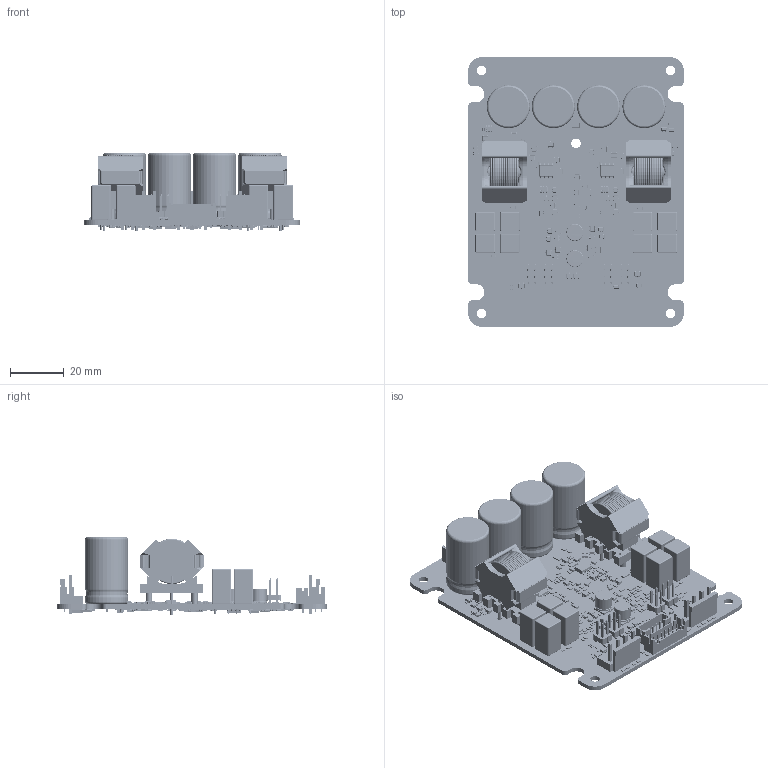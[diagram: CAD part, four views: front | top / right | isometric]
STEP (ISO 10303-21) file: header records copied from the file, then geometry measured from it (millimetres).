
FILE_DESCRIPTION(/* description */ ('STEP AP214','CAx-IF Rec.Pracs.---User Defined Attributes---1.5---2016-08-15'),/* implementation_level */ '2;1');
FILE_NAME(/* name */ '6a548a0de318a1da603805b0',/* time_stamp */ '2026-07-13T06:47:54Z',/* author */ (''),/* organization */ (''),/* preprocessor_version */ 'ST-DEVELOPER v20',/* originating_system */ 'ONSHAPE BY PTC INC, 1.217',/* authorisation */ ' ');
FILE_SCHEMA (('AUTOMOTIVE_DESIGN {1 0 10303 214 3 1 1}'));
Length unit declared in the file: metre
Products named in the file (10): Part 1_1; Part 2_3; SC400A2; Part 1_3; Part 1_2; Part 1_1_1; C61035-A0028-C087-01-27_1_2; Part 2_1; Part 1
Bounding box: 80 x 100 x 28.95 mm (x, y, z)
Volume: 61133 mm3; surface area: 49325.1 mm2
Topology: 10 solids, 10 shells, 16159 faces, 41373 edges, 25053 vertices
Faces by surface type: plane 9738, cylinder 4549, sphere 1012, torus 614, bspline 210, cone 36
Full cylindrical faces by diameter (mm): 0.25 x3, 0.5 x20, 0.6 x14, 0.8 x26, 0.9 x22, 1 x48, 1.19 x2, 1.2 x8, 1.5 x1, 1.7 x4, 1.75 x3, 1.95 x8, 2.3 x16, 3.5 x5, 5.9 x2, 6.3 x4, 8.55 x7, 16 x8
Entity records: 492706 total; most frequent: CARTESIAN_POINT 100864, DIRECTION 81494, ORIENTED_EDGE 80464, EDGE_CURVE 40232, LINE 29798, VECTOR 29798, AXIS2_PLACEMENT_3D 25848, VERTEX_POINT 24951
